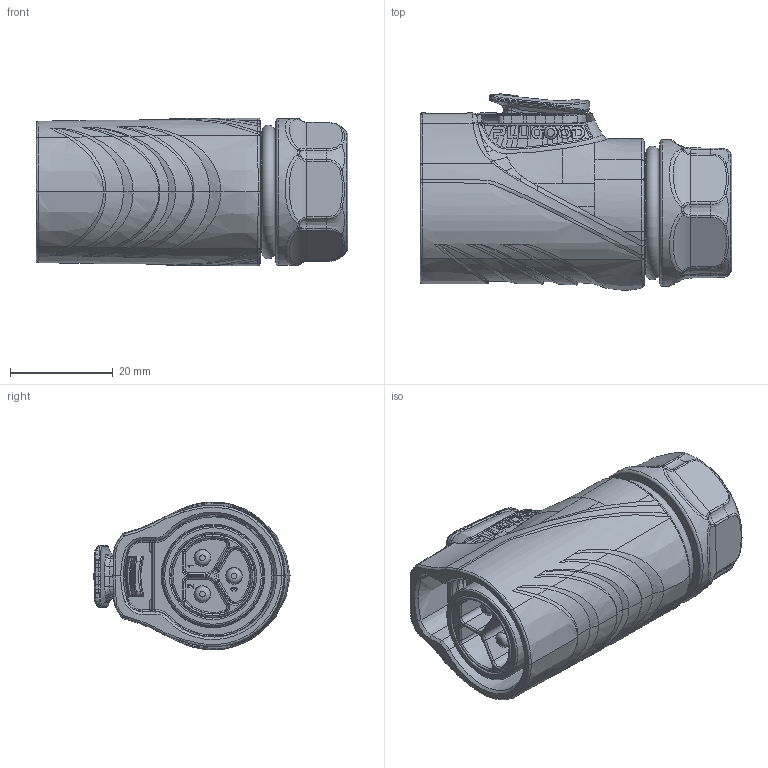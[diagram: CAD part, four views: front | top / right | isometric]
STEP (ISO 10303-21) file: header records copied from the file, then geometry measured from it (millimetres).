
FILE_DESCRIPTION (( 'STEP AP203' ), '1' );
FILE_NAME ('PLG20 3郋坶蹟佪脣芛.STEP', '2025-03-20T06:14:17', ( '' ), ( '' ), 'SwSTEP 2.0', 'SolidWorks 2024', '' );
FILE_SCHEMA (( 'CONFIG_CONTROL_DESIGN' ));
Products named in the file (1): PLG20 3芯锁螺丝插头
Bounding box: 60.7 x 38.21 x 28.77 mm (x, y, z)
Volume: 35303.5 mm3; surface area: 17545.9 mm2
Topology: 2 solids, 6 shells, 1192 faces, 3158 edges, 2001 vertices
Faces by surface type: bspline 716, plane 280, cylinder 116, cone 40, torus 38, sphere 2
Full cylindrical faces by diameter (mm): 1.2 x1, 1.6 x1, 2.5 x1, 2.65 x1, 3.1 x3, 3.3 x3, 16.8 x1, 17.6 x1, 18.5 x2, 18.6 x2, 19.4 x2, 22.237 x8, 28.6 x1
Entity records: 88842 total; most frequent: CARTESIAN_POINT 66115, ORIENTED_EDGE 6102, EDGE_CURVE 3051, DIRECTION 2416, VERTEX_POINT 1958, B_SPLINE_CURVE_WITH_KNOTS 1835, EDGE_LOOP 1271, FACE_OUTER_BOUND 1226
